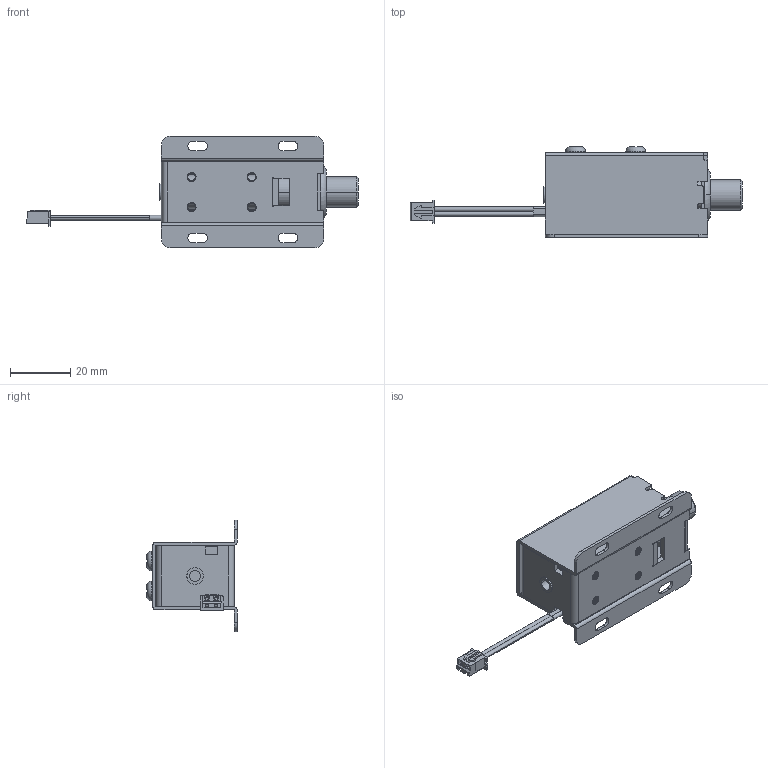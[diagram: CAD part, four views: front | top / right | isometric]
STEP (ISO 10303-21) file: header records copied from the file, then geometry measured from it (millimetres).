
FILE_DESCRIPTION((''),'2;1');
FILE_NAME('LY01B0_ASM','2025-04-24T17:22:13',('PRIME'),(''),'CREO PARAMETRIC BY PTC INC, 2023073','CREO PARAMETRIC BY PTC INC, 2023073','');
FILE_SCHEMA(('CONFIG_CONTROL_DESIGN','SHAPE_APPEARANCE_LAYERS_GROUPS'));
Length unit declared in the file: millimetre
Products named in the file (10): A-LY01B00; B-LY01B000; C-LY01B00; D-LY01B00; E-LY01B00; G-LY01B00; _LY01B00; _M35MM-0001; F-LY01B00; LY01B0_ASM
Assembly tree (10 placements, depth 2):
  LY01B0_ASM
    A-LY01B00
    B-LY01B000
    C-LY01B00
    D-LY01B00
    E-LY01B00
    G-LY01B00
    _LY01B00
    _M35MM-0001  x2
    F-LY01B00
Bounding box: 110.3 x 30 x 37 mm (x, y, z)
Volume: 15999.7 mm3; surface area: 24765.1 mm2
Topology: 12 solids, 12 shells, 636 faces, 1654 edges, 1054 vertices
Faces by surface type: plane 282, cylinder 212, bspline 64, torus 52, cone 16, sphere 10
Entity records: 29301 total; most frequent: CARTESIAN_POINT 11075, ORIENTED_EDGE 2992, DIRECTION 2829, EDGE_CURVE 1496, AXIS2_PLACEMENT_3D 984, VERTEX_POINT 956, VECTOR 861, LINE 861
